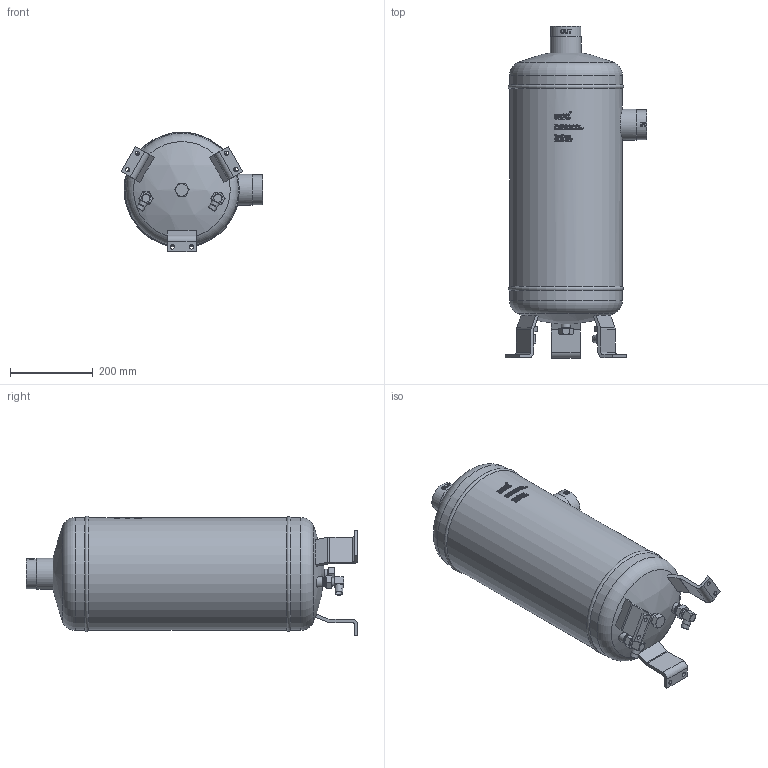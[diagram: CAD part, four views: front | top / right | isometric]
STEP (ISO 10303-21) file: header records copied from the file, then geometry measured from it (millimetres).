
FILE_DESCRIPTION(/* description */ (''),/* implementation_level */ '2;1');
FILE_NAME(/* name */ 'P:\FA\FA-67-32W\FA-67-32W.stp',/* time_stamp */ '2017-12-14T10:40:31+01:00',/* author */ ('neufeld'),/* organization */ (''),/* preprocessor_version */ 'ST-DEVELOPER v16.1',/* originating_system */ 'Autodesk Inventor 2016',/* authorisation */ '');
FILE_SCHEMA (('AUTOMOTIVE_DESIGN { 1 0 10303 214 3 1 1 }'));
Length unit declared in the file: millimetre
Products named in the file (1): FA-67-32W_AG-Kunde
Bounding box: 343.9 x 804.28 x 289.97 mm (x, y, z)
Volume: 37102203.7 mm3; surface area: 755977.7 mm2
Topology: 1 solids, 1 shells, 1455 faces, 3910 edges, 2591 vertices
Faces by surface type: plane 780, bspline 460, cylinder 159, cone 50, torus 4, sphere 2
Full cylindrical faces by diameter (mm): 10.5 x6, 11 x2, 13 x2, 16 x2, 19 x4, 22.5 x3, 25.2 x3, 26 x2, 67.3 x2, 72.5 x2, 75.4 x2, 273.2 x3
Entity records: 55318 total; most frequent: CARTESIAN_POINT 21401, ORIENTED_EDGE 7678, DIRECTION 5859, EDGE_CURVE 3839, VERTEX_POINT 2572, AXIS2_PLACEMENT_3D 2038, LINE 1783, VECTOR 1783
